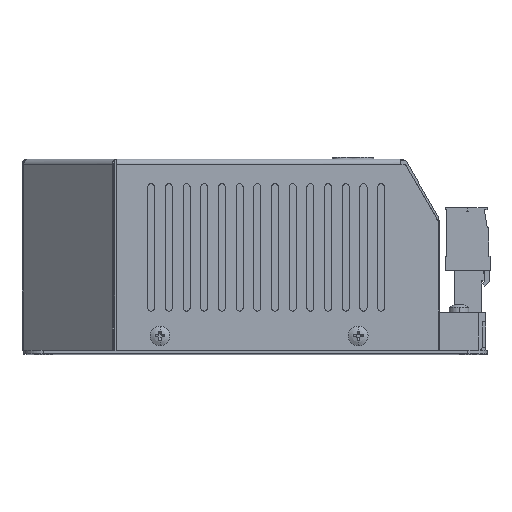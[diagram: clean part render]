
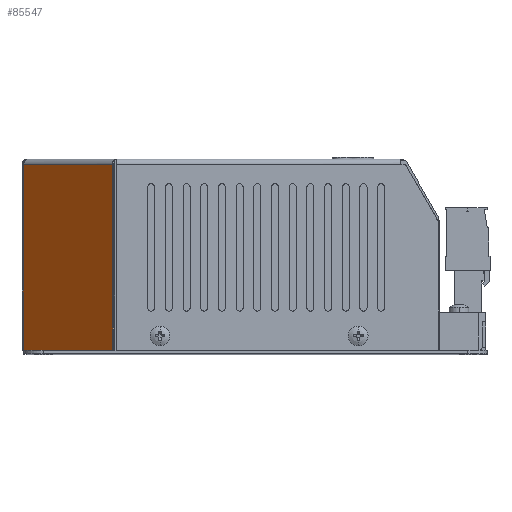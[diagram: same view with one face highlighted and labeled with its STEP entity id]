
A CAD part, top view. The second image highlights one B-rep face of the part: STEP entity #85547.
In plain terms, the highlighted planar face has unit normal (-0.707, 0, 0.707).
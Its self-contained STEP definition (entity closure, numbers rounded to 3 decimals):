
#2007 = LINE ( 'NONE', #46159, #26393 ) ;
#2909 = DIRECTION ( 'NONE',  ( -0.707, 0., -0.707 ) ) ;
#6159 = ORIENTED_EDGE ( 'NONE', *, *, #70332, .F. ) ;
#7056 = VECTOR ( 'NONE', #102417, 1000. ) ;
#9910 = LINE ( 'NONE', #47088, #7056 ) ;
#13457 = EDGE_LOOP ( 'NONE', ( #107903, #105991, #108607, #6159, #14437, #114837 ) ) ;
#14437 = ORIENTED_EDGE ( 'NONE', *, *, #46651, .T. ) ;
#16763 = CARTESIAN_POINT ( 'NONE',  ( -2.314, -45.811, 72.376 ) ) ;
#18181 = CARTESIAN_POINT ( 'NONE',  ( -27.314, -45.811, 47.376 ) ) ;
#18530 = VERTEX_POINT ( 'NONE', #16763 ) ;
#19066 = CARTESIAN_POINT ( 'NONE',  ( -2.222, -45.811, 72.468 ) ) ;
#20617 = VERTEX_POINT ( 'NONE', #101935 ) ;
#26393 = VECTOR ( 'NONE', #64747, 1000. ) ;
#27910 = LINE ( 'NONE', #76613, #98660 ) ;
#31776 = EDGE_CURVE ( 'NONE', #18530, #74291, #2007, .T. ) ;
#33162 = DIRECTION ( 'NONE',  ( 0.707, 0., -0.707 ) ) ;
#38930 = CARTESIAN_POINT ( 'NONE',  ( -27.406, 6.689, 47.283 ) ) ;
#46159 = CARTESIAN_POINT ( 'NONE',  ( -2.222, -45.811, 72.468 ) ) ;
#46651 = EDGE_CURVE ( 'NONE', #108811, #81553, #112339, .T. ) ;
#46825 = LINE ( 'NONE', #112951, #93061 ) ;
#47088 = CARTESIAN_POINT ( 'NONE',  ( -27.406, -45.811, 47.283 ) ) ;
#51243 = PLANE ( 'NONE',  #83283 ) ;
#51837 = CARTESIAN_POINT ( 'NONE',  ( -2.222, -45.811, 72.468 ) ) ;
#54557 = VECTOR ( 'NONE', #102144, 1000. ) ;
#64747 = DIRECTION ( 'NONE',  ( -0.707, 0., -0.707 ) ) ;
#70169 = LINE ( 'NONE', #51837, #94703 ) ;
#70332 = EDGE_CURVE ( 'NONE', #108811, #18530, #70169, .T. ) ;
#70701 = EDGE_CURVE ( 'NONE', #73474, #81553, #46825, .T. ) ;
#73474 = VERTEX_POINT ( 'NONE', #38930 ) ;
#74291 = VERTEX_POINT ( 'NONE', #18181 ) ;
#76613 = CARTESIAN_POINT ( 'NONE',  ( -2.222, -45.811, 72.468 ) ) ;
#77058 = FACE_OUTER_BOUND ( 'NONE', #13457, .T. ) ;
#81553 = VERTEX_POINT ( 'NONE', #89258 ) ;
#83283 = AXIS2_PLACEMENT_3D ( 'NONE', #88434, #33162, #97722 ) ;
#85547 = ADVANCED_FACE ( 'NONE', ( #77058 ), #51243, .F. ) ;
#88434 = CARTESIAN_POINT ( 'NONE',  ( -20.314, -36.811, 54.376 ) ) ;
#89258 = CARTESIAN_POINT ( 'NONE',  ( -2.222, 6.689, 72.468 ) ) ;
#93061 = VECTOR ( 'NONE', #103320, 1000. ) ;
#94703 = VECTOR ( 'NONE', #107182, 1000. ) ;
#97722 = DIRECTION ( 'NONE',  ( 0., -1., 0. ) ) ;
#98660 = VECTOR ( 'NONE', #2909, 1000. ) ;
#100366 = EDGE_CURVE ( 'NONE', #74291, #20617, #27910, .T. ) ;
#101935 = CARTESIAN_POINT ( 'NONE',  ( -27.406, -45.811, 47.283 ) ) ;
#102144 = DIRECTION ( 'NONE',  ( 0., 1., 0. ) ) ;
#102417 = DIRECTION ( 'NONE',  ( 0., 1., 0. ) ) ;
#103320 = DIRECTION ( 'NONE',  ( 0.707, 0., 0.707 ) ) ;
#105991 = ORIENTED_EDGE ( 'NONE', *, *, #100366, .F. ) ;
#106531 = EDGE_CURVE ( 'NONE', #20617, #73474, #9910, .T. ) ;
#107182 = DIRECTION ( 'NONE',  ( -0.707, 0., -0.707 ) ) ;
#107903 = ORIENTED_EDGE ( 'NONE', *, *, #106531, .F. ) ;
#108607 = ORIENTED_EDGE ( 'NONE', *, *, #31776, .F. ) ;
#108811 = VERTEX_POINT ( 'NONE', #113098 ) ;
#112339 = LINE ( 'NONE', #19066, #54557 ) ;
#112951 = CARTESIAN_POINT ( 'NONE',  ( -27.406, 6.689, 47.283 ) ) ;
#113098 = CARTESIAN_POINT ( 'NONE',  ( -2.222, -45.811, 72.468 ) ) ;
#114837 = ORIENTED_EDGE ( 'NONE', *, *, #70701, .F. ) ;
